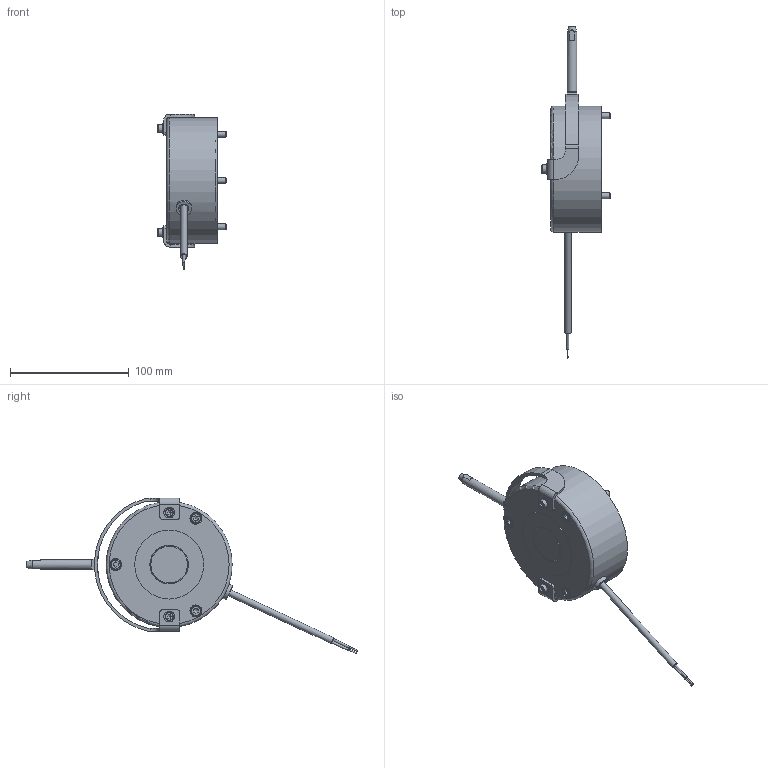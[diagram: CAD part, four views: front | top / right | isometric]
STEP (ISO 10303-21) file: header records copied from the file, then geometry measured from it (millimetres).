
FILE_DESCRIPTION(/* description */ (''),/* implementation_level */ '2;1');
FILE_NAME(/* name */ 'C:\SapWorkDir\Inventor\IP1\ConvertTempPath\5028612_IPT_000.ipt.stp',/* time_stamp */ '2020-09-10T14:02:02+02:00',/* author */ ('STRATE'),/* organization */ (''),/* preprocessor_version */ 'ST-DEVELOPER v17',/* originating_system */ 'Autodesk Inventor 2018',/* authorisation */ '');
FILE_SCHEMA (('AUTOMOTIVE_DESIGN { 1 0 10303 214 3 1 1 }','AP242_MANAGED_MODEL_BASED_3D_ENGINEERING_MIM_LF { 1 0 10303 442 1 1 4 }'));
Length unit declared in the file: millimetre
Products named in the file (1): 5028612
Bounding box: 57.3 x 279.42 x 131.24 mm (x, y, z)
Volume: 338260.8 mm3; surface area: 87060.2 mm2
Topology: 3 solids, 3 shells, 510 faces, 1395 edges, 944 vertices
Faces by surface type: cylinder 304, plane 151, cone 39, torus 16
Full cylindrical faces by diameter (mm): 1 x2, 1.85 x2, 2.2 x1, 4 x4, 4.134 x1, 4.3 x2, 5 x3, 5.3 x1, 5.5 x2, 5.9 x3, 6 x2, 6.3 x2, 6.6 x1, 7 x2, 7.2 x2, 7.5 x2, 8 x1, 8.5 x5, 8.9 x3, 9 x4, 10 x3, 13.2 x1, 24 x1, 31.9 x1, 32 x2, 41.5 x1, 42 x1, 55.5 x2, 56.1 x2, 58 x1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
Entity records: 17843 total; most frequent: CARTESIAN_POINT 4203, ORIENTED_EDGE 2786, DIRECTION 2697, EDGE_CURVE 1393, AXIS2_PLACEMENT_3D 1089, VERTEX_POINT 944, EDGE_LOOP 597, CIRCLE 578
